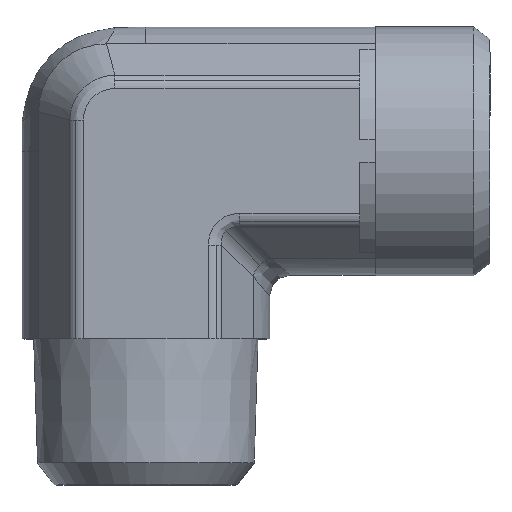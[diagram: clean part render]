
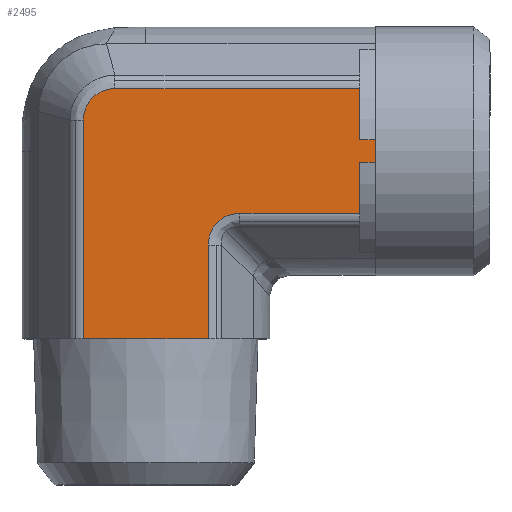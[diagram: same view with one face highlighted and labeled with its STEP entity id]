
A CAD part, top view. The second image highlights one B-rep face of the part: STEP entity #2495.
In plain terms, the highlighted planar face has unit normal (0, 0, 1) as drawn and (0, -1, 0) by its records, which use the part's own axes.
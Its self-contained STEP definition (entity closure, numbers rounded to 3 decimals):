
#319=CARTESIAN_POINT('',(4.521,-11.875,5.99));
#320=VERTEX_POINT('',#319);
#328=CARTESIAN_POINT('',(13.5,-11.875,5.99));
#329=VERTEX_POINT('',#328);
#330=CARTESIAN_POINT('',(4.521,-11.875,5.99));
#331=DIRECTION('',(1.0,0.0,0.0));
#332=VECTOR('',#331,8.979);
#333=LINE('',#330,#332);
#334=EDGE_CURVE('',#320,#329,#333,.T.);
#443=CARTESIAN_POINT('',(-10.49,-11.875,-2.973));
#444=VERTEX_POINT('',#443);
#452=CARTESIAN_POINT('',(-10.49,-11.875,20.5));
#453=VERTEX_POINT('',#452);
#454=CARTESIAN_POINT('',(-10.49,-11.875,-2.973));
#455=DIRECTION('',(0.0,0.0,1.0));
#456=VECTOR('',#455,23.473);
#457=LINE('',#454,#456);
#458=EDGE_CURVE('',#444,#453,#457,.T.);
#1981=CARTESIAN_POINT('',(1.49,-11.875,20.5));
#1982=VERTEX_POINT('',#1981);
#1983=CARTESIAN_POINT('',(-3.409,-11.875,20.5));
#1984=VERTEX_POINT('',#1983);
#1985=CARTESIAN_POINT('',(1.49,-11.875,20.5));
#1986=DIRECTION('',(-1.0,0.0,0.0));
#1987=VECTOR('',#1986,4.899);
#1988=LINE('',#1985,#1987);
#1989=EDGE_CURVE('',#1982,#1984,#1988,.T.);
#2040=CARTESIAN_POINT('',(-5.591,-11.875,20.5));
#2041=VERTEX_POINT('',#2040);
#2042=CARTESIAN_POINT('',(-5.591,-11.875,20.5));
#2043=DIRECTION('',(-1.0,0.0,0.0));
#2044=VECTOR('',#2043,4.899);
#2045=LINE('',#2042,#2044);
#2046=EDGE_CURVE('',#2041,#453,#2045,.T.);
#2104=CARTESIAN_POINT('',(-5.591,-11.875,22.0));
#2105=VERTEX_POINT('',#2104);
#2106=CARTESIAN_POINT('',(-5.591,-11.875,22.0));
#2107=DIRECTION('',(0.0,0.0,-1.0));
#2108=VECTOR('',#2107,1.5);
#2109=LINE('',#2106,#2108);
#2110=EDGE_CURVE('',#2105,#2041,#2109,.T.);
#2127=CARTESIAN_POINT('',(-3.409,-11.875,22.0));
#2128=VERTEX_POINT('',#2127);
#2129=CARTESIAN_POINT('',(-3.409,-11.875,20.5));
#2130=DIRECTION('',(0.0,0.0,1.0));
#2131=VECTOR('',#2130,1.5);
#2132=LINE('',#2129,#2131);
#2133=EDGE_CURVE('',#1984,#2128,#2132,.T.);
#2407=CARTESIAN_POINT('',(-4.5,-11.875,22.0));
#2408=VERTEX_POINT('',#2407);
#2409=CARTESIAN_POINT('',(-4.5,-11.875,22.0));
#2410=DIRECTION('',(-1.0,0.0,0.0));
#2411=VECTOR('',#2410,1.091);
#2412=LINE('',#2409,#2411);
#2413=EDGE_CURVE('',#2408,#2105,#2412,.T.);
#2431=CARTESIAN_POINT('',(-4.5,-11.875,-3.175));
#2432=DIRECTION('',(0.0,-1.0,0.0));
#2433=DIRECTION('',(0.0,0.0,-1.0));
#2434=AXIS2_PLACEMENT_3D('',#2431,#2432,#2433);
#2435=PLANE('',#2434);
#2436=ORIENTED_EDGE('',*,*,#2110,.T.);
#2437=ORIENTED_EDGE('',*,*,#2046,.T.);
#2438=ORIENTED_EDGE('',*,*,#458,.F.);
#2439=CARTESIAN_POINT('',(-7.473,-11.875,-5.99));
#2440=VERTEX_POINT('',#2439);
#2441=CARTESIAN_POINT('',(-10.49,-11.875,-2.973));
#2442=CARTESIAN_POINT('',(-10.49,-11.875,-3.17));
#2443=CARTESIAN_POINT('',(-10.471,-11.875,-3.368));
#2444=CARTESIAN_POINT('',(-10.369,-11.875,-3.873));
#2445=CARTESIAN_POINT('',(-10.259,-11.875,-4.171));
#2446=CARTESIAN_POINT('',(-9.855,-11.875,-4.889));
#2447=CARTESIAN_POINT('',(-9.496,-11.875,-5.266));
#2448=CARTESIAN_POINT('',(-8.588,-11.875,-5.831));
#2449=CARTESIAN_POINT('',(-8.031,-11.875,-5.99));
#2450=CARTESIAN_POINT('',(-7.473,-11.875,-5.99));
#2451=B_SPLINE_CURVE_WITH_KNOTS('',3,(#2441,#2442,#2443,#2444,#2445,#2446,#2447,#2448,#2449,#2450),.UNSPECIFIED.,.F.,.U.,(4,2,2,2,4),(-4.713,-4.124,-3.181,-1.673,0.0),.UNSPECIFIED.);
#2452=EDGE_CURVE('',#2440,#444,#2451,.F.);
#2453=ORIENTED_EDGE('',*,*,#2452,.F.);
#2454=CARTESIAN_POINT('',(13.5,-11.875,-5.99));
#2455=VERTEX_POINT('',#2454);
#2456=CARTESIAN_POINT('',(13.5,-11.875,-5.99));
#2457=DIRECTION('',(-1.0,0.0,0.0));
#2458=VECTOR('',#2457,20.973);
#2459=LINE('',#2456,#2458);
#2460=EDGE_CURVE('',#2455,#2440,#2459,.T.);
#2461=ORIENTED_EDGE('',*,*,#2460,.F.);
#2462=CARTESIAN_POINT('',(13.5,-11.875,-5.99));
#2463=DIRECTION('',(0.0,0.0,1.0));
#2464=VECTOR('',#2463,11.98);
#2465=LINE('',#2462,#2464);
#2466=EDGE_CURVE('',#2455,#329,#2465,.T.);
#2467=ORIENTED_EDGE('',*,*,#2466,.T.);
#2468=ORIENTED_EDGE('',*,*,#334,.F.);
#2469=CARTESIAN_POINT('',(1.49,-11.875,9.021));
#2470=VERTEX_POINT('',#2469);
#2471=CARTESIAN_POINT('',(5.531,-11.875,10.031));
#2472=DIRECTION('',(0.,-1.,0.));
#2473=DIRECTION('',(-0.707,0.,-0.707));
#2474=AXIS2_PLACEMENT_3D('',#2471,#2472,#2473);
#2475=ELLIPSE('',#2474,4.518,3.5);
#2476=EDGE_CURVE('',#2470,#320,#2475,.T.);
#2477=ORIENTED_EDGE('',*,*,#2476,.F.);
#2478=CARTESIAN_POINT('',(1.49,-11.875,20.5));
#2479=DIRECTION('',(0.0,0.0,-1.0));
#2480=VECTOR('',#2479,11.479);
#2481=LINE('',#2478,#2480);
#2482=EDGE_CURVE('',#1982,#2470,#2481,.T.);
#2483=ORIENTED_EDGE('',*,*,#2482,.F.);
#2484=ORIENTED_EDGE('',*,*,#1989,.T.);
#2485=ORIENTED_EDGE('',*,*,#2133,.T.);
#2486=CARTESIAN_POINT('',(-3.409,-11.875,22.0));
#2487=DIRECTION('',(-1.0,0.0,0.0));
#2488=VECTOR('',#2487,1.091);
#2489=LINE('',#2486,#2488);
#2490=EDGE_CURVE('',#2128,#2408,#2489,.T.);
#2491=ORIENTED_EDGE('',*,*,#2490,.T.);
#2492=ORIENTED_EDGE('',*,*,#2413,.T.);
#2493=EDGE_LOOP('',(#2436,#2437,#2438,#2453,#2461,#2467,#2468,#2477,#2483,#2484,#2485,#2491,#2492));
#2494=FACE_OUTER_BOUND('',#2493,.T.);
#2495=ADVANCED_FACE('',(#2494),#2435,.T.);
